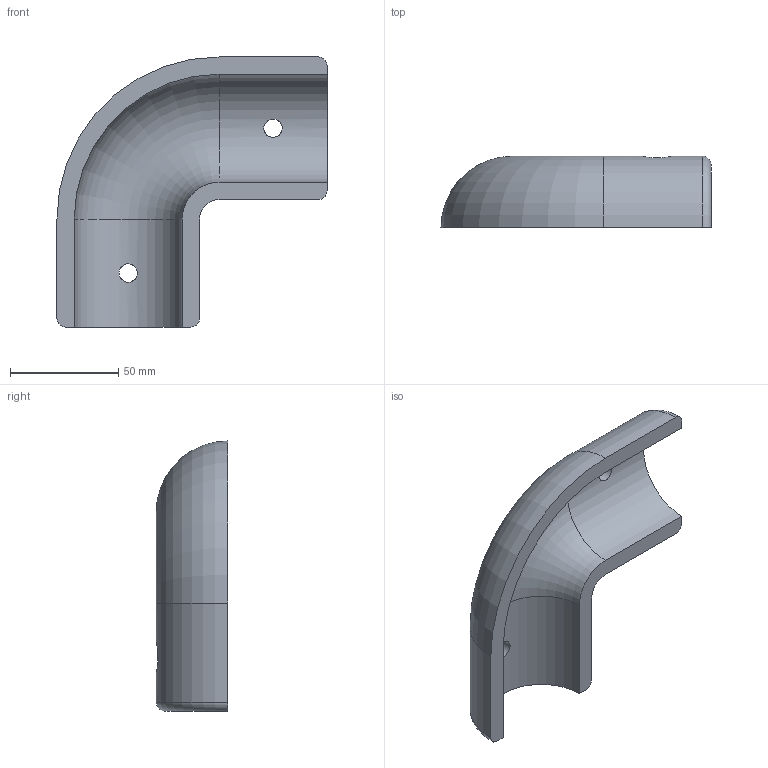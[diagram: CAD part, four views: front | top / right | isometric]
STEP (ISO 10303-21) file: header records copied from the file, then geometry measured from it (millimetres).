
FILE_DESCRIPTION(/* description */ ('FRP HANDRAIL FITTING'),/* implementation_level */ '2;1');
FILE_NAME(/* name */ 'C:\Users\Callum\The Trustee for INKSTONE UNIT TRUST\GRP Australia - Documents\8 Drawings\Handrails\3D Models\Handrail Fittings STEP\MH2-90 elbow.stp',/* time_stamp */ '2022-09-15T10:26:08+10:00',/* author */ ('Callum'),/* organization */ (''),/* preprocessor_version */ 'ST-DEVELOPER v18.1',/* originating_system */ 'Autodesk Inventor 2022',/* authorisation */ '');
FILE_SCHEMA (('AUTOMOTIVE_DESIGN { 1 0 10303 214 3 1 1 }'));
Length unit declared in the file: millimetre
Products named in the file (1): MH2-90 elbow
Bounding box: 125 x 33 x 125 mm (x, y, z)
Volume: 119027.8 mm3; surface area: 34222.9 mm2
Topology: 1 solids, 1 shells, 18 faces, 46 edges, 32 vertices
Faces by surface type: cylinder 8, plane 6, torus 4
Full cylindrical faces by diameter (mm): 8.5 x2, 14 x2
Entity records: 736 total; most frequent: CARTESIAN_POINT 234, DIRECTION 98, ORIENTED_EDGE 92, EDGE_CURVE 46, AXIS2_PLACEMENT_3D 41, VERTEX_POINT 32, EDGE_LOOP 24, CIRCLE 22
